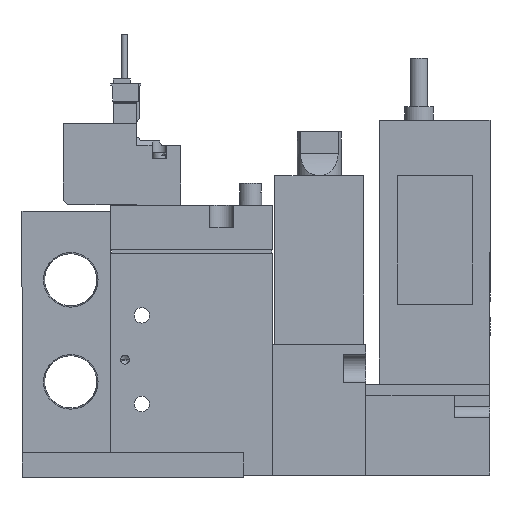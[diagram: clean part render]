
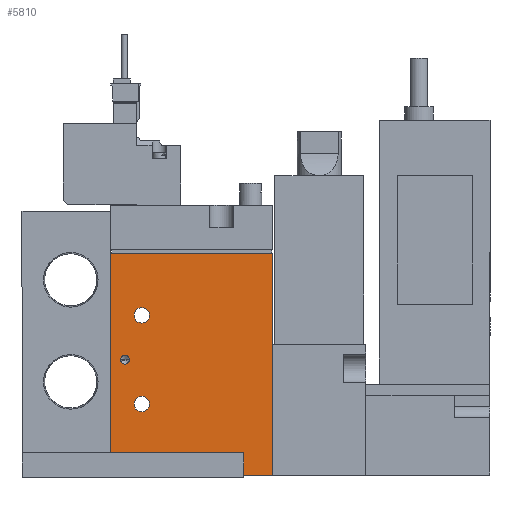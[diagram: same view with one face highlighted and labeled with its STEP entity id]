
A CAD part, left-side view. The second image highlights one B-rep face of the part: STEP entity #5810.
In plain terms, the highlighted planar face has unit normal (-1, 0, 0) as drawn and (1, 0, 0) by its records, which use the part's own axes.
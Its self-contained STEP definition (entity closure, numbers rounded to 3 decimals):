
#5810=ADVANCED_FACE('',(#9466,#9467,#9468,#9469),#9470,.F.);
#9466=FACE_BOUND('',#15603,.T.);
#9467=FACE_BOUND('',#15604,.T.);
#9468=FACE_BOUND('',#15605,.T.);
#9469=FACE_OUTER_BOUND('',#15606,.T.);
#9470=PLANE('',#15607);
#15603=EDGE_LOOP('',(#24865));
#15604=EDGE_LOOP('',(#24866));
#15605=EDGE_LOOP('',(#24867));
#15606=EDGE_LOOP('',(#24868,#24869,#24870,#24871));
#15607=AXIS2_PLACEMENT_3D('',#24872,#24873,#24874);
#24865=ORIENTED_EDGE('',*,*,#42279,.F.);
#24866=ORIENTED_EDGE('',*,*,#42273,.T.);
#24867=ORIENTED_EDGE('',*,*,#42278,.T.);
#24868=ORIENTED_EDGE('',*,*,#42280,.T.);
#24869=ORIENTED_EDGE('',*,*,#42281,.F.);
#24870=ORIENTED_EDGE('',*,*,#42282,.F.);
#24871=ORIENTED_EDGE('',*,*,#42283,.T.);
#24872=CARTESIAN_POINT('',(8.5,-19.444,50.0));
#24873=DIRECTION('',(-1.0,0.0,0.0));
#24874=DIRECTION('',(0.0,0.0,1.0));
#42273=EDGE_CURVE('',#49656,#49656,#49657,.T.);
#42278=EDGE_CURVE('',#49666,#49666,#49667,.T.);
#42279=EDGE_CURVE('',#49668,#49668,#49669,.T.);
#42280=EDGE_CURVE('',#49670,#49671,#49672,.T.);
#42281=EDGE_CURVE('',#49673,#49671,#49674,.T.);
#42282=EDGE_CURVE('',#49675,#49673,#49676,.T.);
#42283=EDGE_CURVE('',#49675,#49670,#49677,.T.);
#49656=VERTEX_POINT('',#61900);
#49657=CIRCLE('',#61901,1.75);
#49666=VERTEX_POINT('',#61910);
#49667=CIRCLE('',#61911,1.75);
#49668=VERTEX_POINT('',#61912);
#49669=CIRCLE('',#61913,1.0);
#49670=VERTEX_POINT('',#61914);
#49671=VERTEX_POINT('',#61915);
#49672=LINE('',#61916,#61917);
#49673=VERTEX_POINT('',#61918);
#49674=LINE('',#61919,#61920);
#49675=VERTEX_POINT('',#61921);
#49676=LINE('',#61922,#61923);
#49677=LINE('',#61924,#61925);
#61900=CARTESIAN_POINT('',(8.5,-10.694,36.0));
#61901=AXIS2_PLACEMENT_3D('',#76657,#76658,#76659);
#61910=CARTESIAN_POINT('',(8.5,-10.694,16.0));
#61911=AXIS2_PLACEMENT_3D('',#76672,#76673,#76674);
#61912=CARTESIAN_POINT('',(8.5,-17.244,26.0));
#61913=AXIS2_PLACEMENT_3D('',#76675,#76676,#76677);
#61914=CARTESIAN_POINT('',(8.5,-19.444,0.0));
#61915=CARTESIAN_POINT('',(8.5,17.056,0.0));
#61916=CARTESIAN_POINT('',(8.5,-19.444,0.0));
#61917=VECTOR('',#76678,1.0);
#61918=CARTESIAN_POINT('',(8.5,17.056,50.0));
#61919=CARTESIAN_POINT('',(8.5,17.056,50.0));
#61920=VECTOR('',#76679,1.0);
#61921=CARTESIAN_POINT('',(8.5,-19.444,50.0));
#61922=CARTESIAN_POINT('',(8.5,-19.444,50.0));
#61923=VECTOR('',#76680,1.0);
#61924=CARTESIAN_POINT('',(8.5,-19.444,50.0));
#61925=VECTOR('',#76681,1.0);
#76657=CARTESIAN_POINT('',(8.5,-12.444,36.0));
#76658=DIRECTION('',(-1.0,0.0,0.0));
#76659=DIRECTION('',(0.0,1.0,0.0));
#76672=CARTESIAN_POINT('',(8.5,-12.444,16.0));
#76673=DIRECTION('',(-1.0,0.0,0.0));
#76674=DIRECTION('',(0.0,1.0,0.0));
#76675=CARTESIAN_POINT('',(8.5,-16.244,26.0));
#76676=DIRECTION('',(1.0,0.,0.0));
#76677=DIRECTION('',(0.,-1.0,0.0));
#76678=DIRECTION('',(0.0,1.0,0.0));
#76679=DIRECTION('',(0.0,0.0,-1.0));
#76680=DIRECTION('',(0.0,1.0,0.0));
#76681=DIRECTION('',(0.0,0.0,-1.0));
